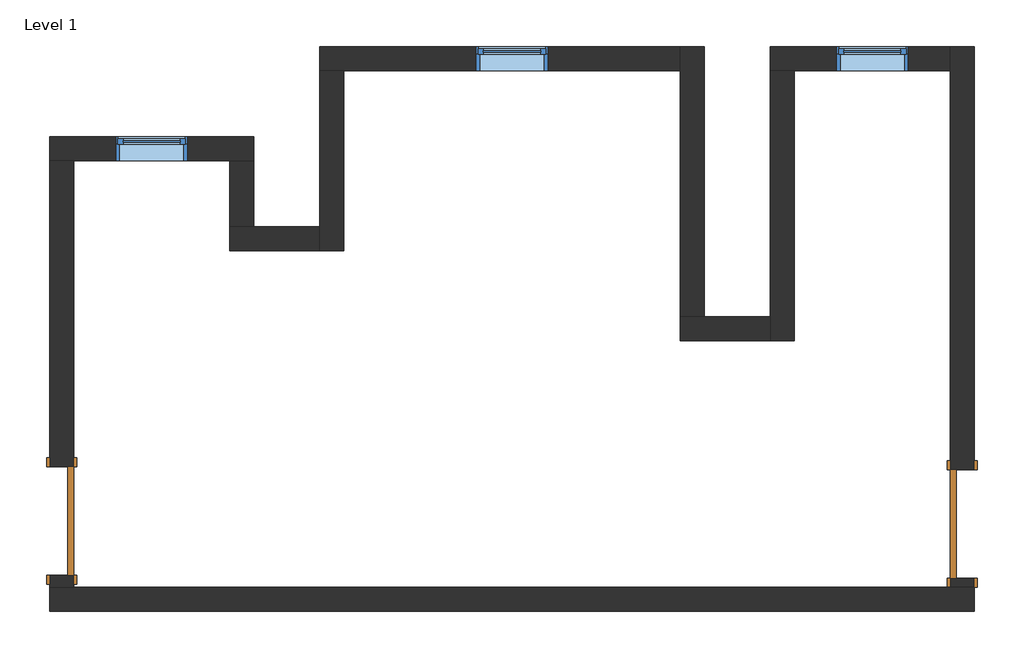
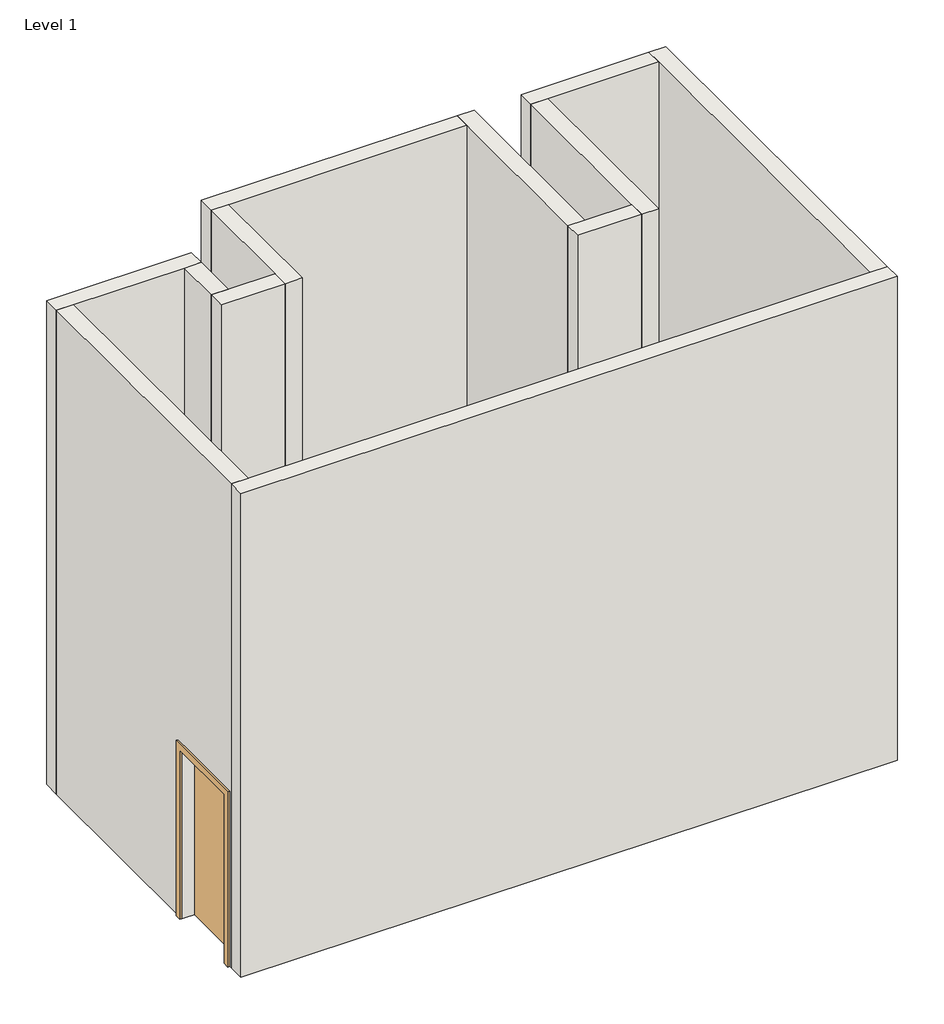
# One storey: 12 walls, 3 windows, 2 doors.
"""IFC4 building model written with IfcOpenShell, lengths in millimetres."""

from ifc_helpers import new_model, si_unit, frame, origin, origin_with_axes, place, context, project, spatial, polyline, outline, extrude, faceted_brep, transform, mapped, element, save
from components import door_54dd4da4, door_719f80de, window_80bd9af0

model = new_model("IFC4")

# Units and contexts
model_context = context("Model", 3, world=origin())
ifc_project = project(units=[si_unit("LENGTHUNIT", "METRE", prefix="MILLI")], contexts=[model_context])

# Site, building, storey
site = spatial("IfcSite", under=ifc_project)
building = spatial("IfcBuilding", under=site)
storey = spatial("IfcBuildingStorey", under=building, Name="Level 1", Elevation=0.0)

# Doors
placement = place(None, origin())
door_shape = door_54dd4da4(model_context)
element("IfcDoor", 1, ObjectType="Single-Flush : 36\" x 84\"", at=placement, inside=storey, context=model_context, shape_type="MappedRepresentation", body=[
    mapped(door_shape, transform((1543.7470165, -1358.5943471, 0.0), x_axis=(0.0, -1.0, 0.0), y_axis=(1.0, 0.0, 0.0), z_axis=(0.0, 0.0, 1.0))),
])
door_2_shape = door_719f80de(model_context)
element("IfcDoor", 2, ObjectType="Single-Flush : 36\" x 84\"", at=placement, inside=storey, context=model_context, shape_type="MappedRepresentation", body=[
    mapped(door_2_shape, transform((9163.7470165, -1383.9943471, 0.0), x_axis=(0.0, -1.0, 0.0), y_axis=(1.0, 0.0, 0.0), z_axis=(0.0, 0.0, 1.0))),
])

# Walls
element("IfcWall", 3, ObjectType="Generic - 8\"", at=placement, inside=storey, context=model_context, shape_type="Brep", body=[
    faceted_brep([(1442.1470165, -2120.5943471, 0.0), (9265.3470165, -2120.5943471, 0.0), (9265.3470165, -2120.5943471, 6096.0), (1442.1470165, -2120.5943471, 6096.0), (1442.1470165, -1917.3943471, 0.0), (1442.1470165, -1917.3943471, 6096.0), (1645.3470165, -1917.3943471, 6096.0), (9062.1470165, -1917.3943471, 6096.0), (9265.3470165, -1917.3943471, 6096.0), (9265.3470165, -1917.3943471, 0.0), (9062.1470165, -1917.3943471, 0.0), (1645.3470165, -1917.3943471, 0.0)], [[[0, 1, 2, 3]], [[4, 5, 6, 7, 8, 9, 10, 11]], [[1, 0, 4, 11, 10, 9]], [[3, 2, 8, 7, 6, 5]], [[2, 1, 9, 8]], [[0, 3, 5, 4]]]),
])
element("IfcWall", 4, ObjectType="Generic - 8\"", at=placement, inside=storey, context=model_context, shape_type="Brep", body=[
    faceted_brep([(9265.3470165, -1917.3943471, 0.0), (9265.3470165, -1841.1943471, 0.0), (9265.3470165, -1841.1943471, 2133.6), (9265.3470165, -926.7943471, 2133.6), (9265.3470165, -926.7943471, 0.0), (9265.3470165, 2654.6056529, 0.0), (9265.3470165, 2654.6056529, 6096.0), (9265.3470165, -1917.3943471, 6096.0), (9062.1470165, -1841.1943471, 2133.6), (9062.1470165, -1841.1943471, 0.0), (9062.1470165, -1917.3943471, 0.0), (9062.1470165, -1917.3943471, 6096.0), (9062.1470165, 2451.4056529, 6096.0), (9062.1470165, 2654.6056529, 6096.0), (9062.1470165, 2654.6056529, 0.0), (9062.1470165, 2451.4056529, 0.0), (9062.1470165, -926.7943471, 0.0), (9062.1470165, -926.7943471, 2133.6)], [[[0, 1, 2, 3, 4, 5, 6, 7]], [[8, 9, 10, 11, 12, 13, 14, 15, 16, 17]], [[10, 9, 1, 0]], [[16, 15, 14, 5, 4]], [[7, 6, 13, 12, 11]], [[6, 5, 14, 13]], [[0, 7, 11, 10]], [[2, 1, 9, 8]], [[3, 2, 8, 17]], [[4, 3, 17, 16]]]),
])
element("IfcWall", 5, ObjectType="Generic - 8\"", at=placement, inside=storey, context=model_context, shape_type="Brep", body=[
    faceted_brep([(9062.1470165, 2654.6056529, 0.0), (7538.1470165, 2654.6056529, 0.0), (7538.1470165, 2654.6056529, 6096.0), (9062.1470165, 2654.6056529, 6096.0), (8706.5470165, 2654.6056529, 2133.6), (8096.9470165, 2654.6056529, 2133.6), (8096.9470165, 2654.6056529, 914.4), (8706.5470165, 2654.6056529, 914.4), (9062.1470165, 2451.4056529, 0.0), (9062.1470165, 2451.4056529, 6096.0), (7741.3470165, 2451.4056529, 6096.0), (7538.1470165, 2451.4056529, 6096.0), (7538.1470165, 2451.4056529, 0.0), (7741.3470165, 2451.4056529, 0.0), (8706.5470165, 2451.4056529, 2133.6), (8706.5470165, 2451.4056529, 914.4), (8096.9470165, 2451.4056529, 914.4), (8096.9470165, 2451.4056529, 2133.6)], [[[0, 1, 2, 3], [4, 5, 6, 7]], [[8, 9, 10, 11, 12, 13], [14, 15, 16, 17]], [[1, 0, 8, 13, 12]], [[3, 2, 11, 10, 9]], [[2, 1, 12, 11]], [[0, 3, 9, 8]], [[15, 14, 4, 7]], [[16, 15, 7, 6]], [[17, 16, 6, 5]], [[14, 17, 5, 4]]]),
])
element("IfcWall", 6, ObjectType="Generic - 8\"", at=placement, inside=storey, context=model_context, shape_type="Brep", body=[
    faceted_brep([(7538.1470165, 2451.4056529, 0.0), (7538.1470165, 368.6056529, 0.0), (7538.1470165, 165.4056529, 0.0), (7538.1470165, 165.4056529, 6096.0), (7538.1470165, 368.6056529, 6096.0), (7538.1470165, 2451.4056529, 6096.0), (7741.3470165, 2451.4056529, 0.0), (7741.3470165, 2451.4056529, 6096.0), (7741.3470165, 165.4056529, 6096.0), (7741.3470165, 165.4056529, 0.0)], [[[0, 1, 2, 3, 4, 5]], [[6, 7, 8, 9]], [[2, 1, 0, 6, 9]], [[5, 4, 3, 8, 7]], [[3, 2, 9, 8]], [[0, 5, 7, 6]]]),
])
element("IfcWall", 7, ObjectType="Generic - 8\"", at=placement, inside=storey, context=model_context, shape_type="Brep", body=[
    faceted_brep([(7538.1470165, 368.6056529, 0.0), (6979.3470165, 368.6056529, 0.0), (6776.1470165, 368.6056529, 0.0), (6776.1470165, 368.6056529, 6096.0), (6979.3470165, 368.6056529, 6096.0), (7538.1470165, 368.6056529, 6096.0), (7538.1470165, 165.4056529, 0.0), (7538.1470165, 165.4056529, 6096.0), (6776.1470165, 165.4056529, 6096.0), (6776.1470165, 165.4056529, 0.0)], [[[0, 1, 2, 3, 4, 5]], [[6, 7, 8, 9]], [[2, 1, 0, 6, 9]], [[5, 4, 3, 8, 7]], [[3, 2, 9, 8]], [[0, 5, 7, 6]]]),
])
element("IfcWall", 8, ObjectType="Generic - 8\"", at=placement, inside=storey, context=model_context, shape_type="Brep", body=[
    faceted_brep([(6979.3470165, 368.6056529, 0.0), (6979.3470165, 2654.6056529, 0.0), (6979.3470165, 2654.6056529, 6096.0), (6979.3470165, 368.6056529, 6096.0), (6776.1470165, 368.6056529, 0.0), (6776.1470165, 368.6056529, 6096.0), (6776.1470165, 2451.4056529, 6096.0), (6776.1470165, 2654.6056529, 6096.0), (6776.1470165, 2654.6056529, 0.0), (6776.1470165, 2451.4056529, 0.0)], [[[0, 1, 2, 3]], [[4, 5, 6, 7, 8, 9]], [[1, 0, 4, 9, 8]], [[3, 2, 7, 6, 5]], [[2, 1, 8, 7]], [[0, 3, 5, 4]]]),
])
element("IfcWall", 9, ObjectType="Generic - 8\"", at=placement, inside=storey, context=model_context, shape_type="Brep", body=[
    faceted_brep([(6776.1470165, 2654.6056529, 0.0), (3728.1470165, 2654.6056529, 0.0), (3728.1470165, 2654.6056529, 6096.0), (6776.1470165, 2654.6056529, 6096.0), (5658.5470165, 2654.6056529, 2133.6), (5048.9470165, 2654.6056529, 2133.6), (5048.9470165, 2654.6056529, 914.4), (5658.5470165, 2654.6056529, 914.4), (6776.1470165, 2451.4056529, 0.0), (6776.1470165, 2451.4056529, 6096.0), (3931.3470165, 2451.4056529, 6096.0), (3728.1470165, 2451.4056529, 6096.0), (3728.1470165, 2451.4056529, 0.0), (3931.3470165, 2451.4056529, 0.0), (5658.5470165, 2451.4056529, 2133.6), (5658.5470165, 2451.4056529, 914.4), (5048.9470165, 2451.4056529, 914.4), (5048.9470165, 2451.4056529, 2133.6)], [[[0, 1, 2, 3], [4, 5, 6, 7]], [[8, 9, 10, 11, 12, 13], [14, 15, 16, 17]], [[1, 0, 8, 13, 12]], [[3, 2, 11, 10, 9]], [[2, 1, 12, 11]], [[0, 3, 9, 8]], [[15, 14, 4, 7]], [[16, 15, 7, 6]], [[17, 16, 6, 5]], [[14, 17, 5, 4]]]),
])
element("IfcWall", 10, ObjectType="Generic - 8\"", at=placement, inside=storey, context=model_context, shape_type="Brep", body=[
    faceted_brep([(3728.1470165, 2451.4056529, 0.0), (3728.1470165, 1130.6056529, 0.0), (3728.1470165, 927.4056529, 0.0), (3728.1470165, 927.4056529, 6096.0), (3728.1470165, 1130.6056529, 6096.0), (3728.1470165, 2451.4056529, 6096.0), (3931.3470165, 2451.4056529, 0.0), (3931.3470165, 2451.4056529, 6096.0), (3931.3470165, 927.4056529, 6096.0), (3931.3470165, 927.4056529, 0.0)], [[[0, 1, 2, 3, 4, 5]], [[6, 7, 8, 9]], [[2, 1, 0, 6, 9]], [[5, 4, 3, 8, 7]], [[3, 2, 9, 8]], [[0, 5, 7, 6]]]),
])
element("IfcWall", 11, ObjectType="Generic - 8\"", at=placement, inside=storey, context=model_context, shape_type="Brep", body=[
    faceted_brep([(3169.3470165, 1892.6056529, 0.0), (1442.1470165, 1892.6056529, 0.0), (1442.1470165, 1892.6056529, 6096.0), (3169.3470165, 1892.6056529, 6096.0), (2610.5470165, 1892.6056529, 2133.6), (2000.9470165, 1892.6056529, 2133.6), (2000.9470165, 1892.6056529, 914.4), (2610.5470165, 1892.6056529, 914.4), (3169.3470165, 1689.4056529, 0.0), (3169.3470165, 1689.4056529, 6096.0), (2966.1470165, 1689.4056529, 6096.0), (1645.3470165, 1689.4056529, 6096.0), (1442.1470165, 1689.4056529, 6096.0), (1442.1470165, 1689.4056529, 0.0), (1645.3470165, 1689.4056529, 0.0), (2966.1470165, 1689.4056529, 0.0), (2610.5470165, 1689.4056529, 2133.6), (2610.5470165, 1689.4056529, 914.4), (2000.9470165, 1689.4056529, 914.4), (2000.9470165, 1689.4056529, 2133.6)], [[[0, 1, 2, 3], [4, 5, 6, 7]], [[8, 9, 10, 11, 12, 13, 14, 15], [16, 17, 18, 19]], [[1, 0, 8, 15, 14, 13]], [[3, 2, 12, 11, 10, 9]], [[2, 1, 13, 12]], [[0, 3, 9, 8]], [[17, 16, 4, 7]], [[18, 17, 7, 6]], [[19, 18, 6, 5]], [[16, 19, 5, 4]]]),
])
element("IfcWall", 12, ObjectType="Generic - 8\"", at=placement, inside=storey, context=model_context, shape_type="SweptSolid", body=[
    extrude(outline(polyline([(-1815.7943471, 2133.6), (-1815.7943471, 0.0), (-1917.3943471, 0.0), (-1917.3943471, 6096.0), (1689.4056529, 6096.0), (1689.4056529, 0.0), (-901.3943471, 0.0), (-901.3943471, 2133.6), (-1815.7943471, 2133.6)])), frame((1442.1470165, 0.0, 0.0), z_axis=(1.0, 0.0, 0.0), x_axis=(0.0, 1.0, 0.0)), (0.0, 0.0, 1.0), 203.2),
])
element("IfcWall", 13, ObjectType="Generic - 8\"", at=placement, inside=storey, context=model_context, shape_type="Brep", body=[
    faceted_brep([(3728.1470165, 1130.6056529, 0.0), (3169.3470165, 1130.6056529, 0.0), (2966.1470165, 1130.6056529, 0.0), (2966.1470165, 1130.6056529, 6096.0), (3169.3470165, 1130.6056529, 6096.0), (3728.1470165, 1130.6056529, 6096.0), (3728.1470165, 927.4056529, 0.0), (3728.1470165, 927.4056529, 6096.0), (2966.1470165, 927.4056529, 6096.0), (2966.1470165, 927.4056529, 0.0)], [[[0, 1, 2, 3, 4, 5]], [[6, 7, 8, 9]], [[2, 1, 0, 6, 9]], [[5, 4, 3, 8, 7]], [[3, 2, 9, 8]], [[0, 5, 7, 6]]]),
])
element("IfcWall", 14, ObjectType="Generic - 8\"", at=placement, inside=storey, context=model_context, shape_type="SweptSolid", body=[
    extrude(outline(polyline([(3169.3470165, 1689.4056529), (3169.3470165, 1130.6056529), (2966.1470165, 1130.6056529), (2966.1470165, 1689.4056529), (3169.3470165, 1689.4056529)])), origin_with_axes(), (0.0, 0.0, 1.0), 6096.0),
])

# Windows
window_shape = window_80bd9af0(model_context)
element("IfcWindow", 15, ObjectType="Fixed : 24\" x 48\"", at=placement, inside=storey, context=model_context, shape_type="MappedRepresentation", body=[
    mapped(window_shape, transform((2343.8470165, 1791.0056529, 0.0), x_axis=(1.0, 0.0, 0.0), y_axis=(0.0, 1.0, 0.0), z_axis=(0.0, 0.0, 1.0))),
])
element("IfcWindow", 16, ObjectType="Fixed : 24\" x 48\"", at=placement, inside=storey, context=model_context, shape_type="MappedRepresentation", body=[
    mapped(window_shape, transform((5391.8470165, 2553.0056529, 0.0), x_axis=(1.0, 0.0, 0.0), y_axis=(0.0, 1.0, 0.0), z_axis=(0.0, 0.0, 1.0))),
])
element("IfcWindow", 17, ObjectType="Fixed : 24\" x 48\"", at=placement, inside=storey, context=model_context, shape_type="MappedRepresentation", body=[
    mapped(window_shape, transform((8439.8470165, 2553.0056529, 0.0), x_axis=(1.0, 0.0, 0.0), y_axis=(0.0, 1.0, 0.0), z_axis=(0.0, 0.0, 1.0))),
])

save(model, "model.ifc")
